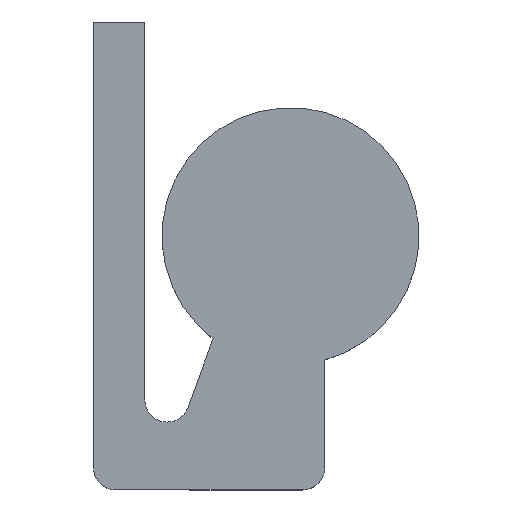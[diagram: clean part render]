
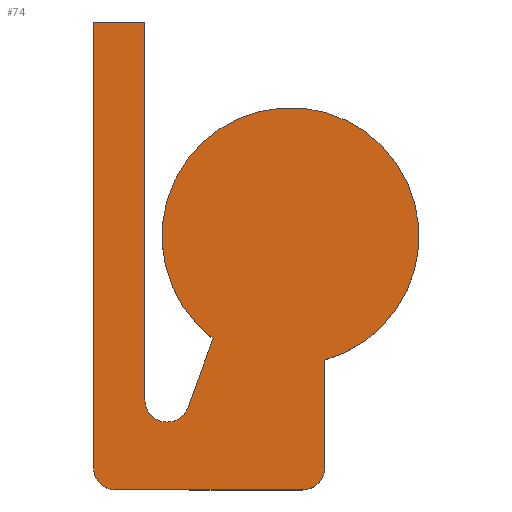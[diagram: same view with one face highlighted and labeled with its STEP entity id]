
A CAD part, top view. The second image highlights one B-rep face of the part: STEP entity #74.
In plain terms, the highlighted planar face has unit normal (0, 0, 1).
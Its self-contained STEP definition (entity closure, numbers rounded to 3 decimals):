
#74 = ADVANCED_FACE( '', ( #178 ), #179, .T. );
#178 = FACE_OUTER_BOUND( '', #322, .T. );
#179 = PLANE( '', #323 );
#322 = EDGE_LOOP( '', ( #476, #477, #478, #479, #480, #481, #482, #483, #484, #485, #486 ) );
#323 = AXIS2_PLACEMENT_3D( '', #487, #488, #489 );
#476 = ORIENTED_EDGE( '', *, *, #778, .F. );
#477 = ORIENTED_EDGE( '', *, *, #776, .T. );
#478 = ORIENTED_EDGE( '', *, *, #779, .F. );
#479 = ORIENTED_EDGE( '', *, *, #780, .F. );
#480 = ORIENTED_EDGE( '', *, *, #781, .F. );
#481 = ORIENTED_EDGE( '', *, *, #782, .F. );
#482 = ORIENTED_EDGE( '', *, *, #783, .F. );
#483 = ORIENTED_EDGE( '', *, *, #784, .F. );
#484 = ORIENTED_EDGE( '', *, *, #785, .F. );
#485 = ORIENTED_EDGE( '', *, *, #786, .F. );
#486 = ORIENTED_EDGE( '', *, *, #787, .F. );
#487 = CARTESIAN_POINT( '', ( -150., -150., 0. ) );
#488 = DIRECTION( '', ( 0., 0., 1. ) );
#489 = DIRECTION( '', ( 0., -1., 0. ) );
#776 = EDGE_CURVE( '', #902, #904, #906, .T. );
#778 = EDGE_CURVE( '', #902, #908, #909, .T. );
#779 = EDGE_CURVE( '', #910, #904, #911, .T. );
#780 = EDGE_CURVE( '', #912, #910, #913, .T. );
#781 = EDGE_CURVE( '', #914, #912, #915, .T. );
#782 = EDGE_CURVE( '', #916, #914, #917, .T. );
#783 = EDGE_CURVE( '', #918, #916, #919, .T. );
#784 = EDGE_CURVE( '', #920, #918, #921, .F. );
#785 = EDGE_CURVE( '', #922, #920, #923, .T. );
#786 = EDGE_CURVE( '', #924, #922, #925, .T. );
#787 = EDGE_CURVE( '', #908, #924, #926, .F. );
#902 = VERTEX_POINT( '', #1081 );
#904 = VERTEX_POINT( '', #1084 );
#906 = CIRCLE( '', #1087, 75. );
#908 = VERTEX_POINT( '', #1089 );
#909 = LINE( '', #1090, #1091 );
#910 = VERTEX_POINT( '', #1092 );
#911 = LINE( '', #1093, #1094 );
#912 = VERTEX_POINT( '', #1095 );
#913 = CIRCLE( '', #1096, 13. );
#914 = VERTEX_POINT( '', #1097 );
#915 = LINE( '', #1098, #1099 );
#916 = VERTEX_POINT( '', #1100 );
#917 = LINE( '', #1101, #1102 );
#918 = VERTEX_POINT( '', #1103 );
#919 = LINE( '', #1104, #1105 );
#920 = VERTEX_POINT( '', #1106 );
#921 = CIRCLE( '', #1107, 13. );
#922 = VERTEX_POINT( '', #1108 );
#923 = LINE( '', #1109, #1110 );
#924 = VERTEX_POINT( '', #1111 );
#925 = LINE( '', #1112, #1113 );
#926 = CIRCLE( '', #1114, 13. );
#1081 = CARTESIAN_POINT( '', ( 20., -72.284, 0. ) );
#1084 = CARTESIAN_POINT( '', ( -45.196, -59.852, 0. ) );
#1087 = AXIS2_PLACEMENT_3D( '', #1306, #1307, #1308 );
#1089 = CARTESIAN_POINT( '', ( 20., -135., 0. ) );
#1090 = CARTESIAN_POINT( '', ( 20., -150., 0. ) );
#1091 = VECTOR( '', #1309, 1000. );
#1092 = CARTESIAN_POINT( '', ( -59.784, -99.931, 0. ) );
#1093 = CARTESIAN_POINT( '', ( -86.429, -173.138, 0. ) );
#1094 = VECTOR( '', #1310, 1000. );
#1095 = CARTESIAN_POINT( '', ( -85., -95.485, 0. ) );
#1096 = AXIS2_PLACEMENT_3D( '', #1311, #1312, #1313 );
#1097 = CARTESIAN_POINT( '', ( -85., 125., 0. ) );
#1098 = CARTESIAN_POINT( '', ( -85., -150., 0. ) );
#1099 = VECTOR( '', #1314, 1000. );
#1100 = CARTESIAN_POINT( '', ( -115., 125., 0. ) );
#1101 = CARTESIAN_POINT( '', ( -150., 125., 0. ) );
#1102 = VECTOR( '', #1315, 1000. );
#1103 = CARTESIAN_POINT( '', ( -115., -135., 0. ) );
#1104 = CARTESIAN_POINT( '', ( -115., -150., 0. ) );
#1105 = VECTOR( '', #1316, 1000. );
#1106 = CARTESIAN_POINT( '', ( -102., -148., 0. ) );
#1107 = AXIS2_PLACEMENT_3D( '', #1317, #1318, #1319 );
#1108 = CARTESIAN_POINT( '', ( -58.714, -148., 0. ) );
#1109 = CARTESIAN_POINT( '', ( -150., -148., 0. ) );
#1110 = VECTOR( '', #1320, 1000. );
#1111 = CARTESIAN_POINT( '', ( 7., -148., 0. ) );
#1112 = CARTESIAN_POINT( '', ( -150., -148., 0. ) );
#1113 = VECTOR( '', #1321, 1000. );
#1114 = AXIS2_PLACEMENT_3D( '', #1322, #1323, #1324 );
#1306 = CARTESIAN_POINT( '', ( 0., 0., 0. ) );
#1307 = DIRECTION( '', ( 0., 0., 1. ) );
#1308 = DIRECTION( '', ( -1., 0., 0. ) );
#1309 = DIRECTION( '', ( 0., -1., 0. ) );
#1310 = DIRECTION( '', ( 0.342, 0.94, 0. ) );
#1311 = CARTESIAN_POINT( '', ( -72., -95.485, 0. ) );
#1312 = DIRECTION( '', ( 0., 0., 1. ) );
#1313 = DIRECTION( '', ( 1., 0., 0. ) );
#1314 = DIRECTION( '', ( 0., -1., 0. ) );
#1315 = DIRECTION( '', ( 1., 0., 0. ) );
#1316 = DIRECTION( '', ( 0., 1., 0. ) );
#1317 = CARTESIAN_POINT( '', ( -102., -135., 0. ) );
#1318 = DIRECTION( '', ( 0., 0., 1. ) );
#1319 = DIRECTION( '', ( 1., 0., 0. ) );
#1320 = DIRECTION( '', ( -1., 0., 0. ) );
#1321 = DIRECTION( '', ( -1., 0., 0. ) );
#1322 = CARTESIAN_POINT( '', ( 7., -135., 0. ) );
#1323 = DIRECTION( '', ( 0., 0., 1. ) );
#1324 = DIRECTION( '', ( 1., 0., 0. ) );
